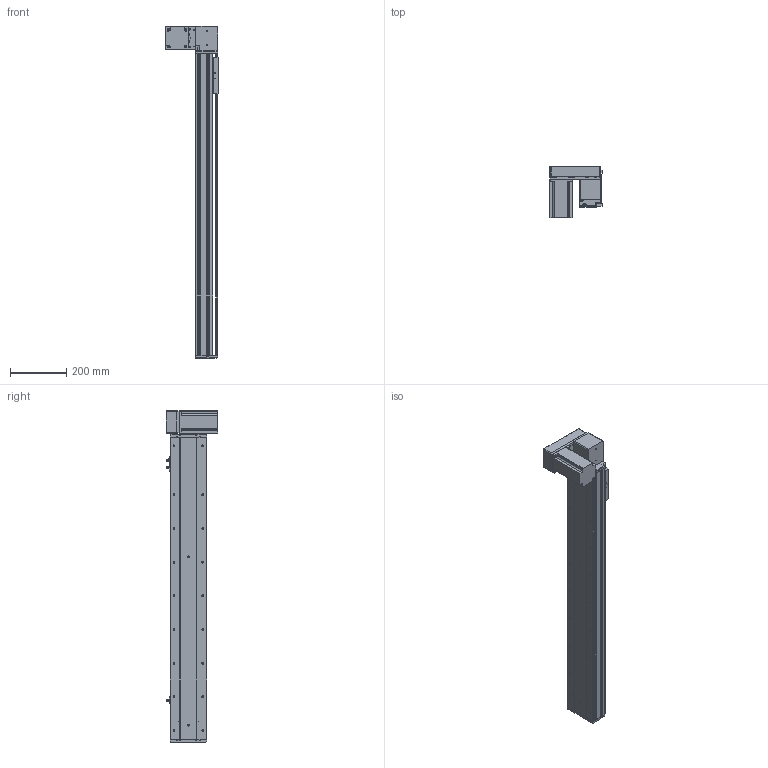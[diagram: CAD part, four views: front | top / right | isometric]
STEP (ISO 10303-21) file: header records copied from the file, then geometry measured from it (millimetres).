
FILE_DESCRIPTION (( 'STEP AP214' ), '1' );
FILE_NAME ('KSD130B-S850-MRD-CM.STEP', '2019-11-15T08:48:45', ( '微软用户' ), ( '微软中国' ), 'SwSTEP 2.0', 'SolidWorks 2014', '' );
FILE_SCHEMA (( 'AUTOMOTIVE_DESIGN' ));
Length unit declared in the file: millimetre
Products named in the file (12): 130宽模组保护罩上下左右折-同步带; 台达ECMA－C20807AS伺服电机; 130宽模组马达安装板连板上下折丝杆同步带; 覜茼え100遵圉猾敕; U倰嫖萇EEㄜSX672; 130宽盖板半封闭同步带-850行程; 130宽马达安装板同步带右-改镜向_默认<按加工>; 130宽马达安装板同步带半封闭; 130宽同步带安装座半封闭; 130宽端盖同步带半封闭; 130宽底板半封闭同步带-850行程; KSD130B-S850-MRD-CM
Assembly tree (13 placements, depth 2):
  KSD130B-S850-MRD-CM
    130宽底板半封闭同步带-850行程
    130宽端盖同步带半封闭
    130宽同步带安装座半封闭
    130宽马达安装板同步带半封闭
    130宽马达安装板同步带右-改镜向_默认<按加工>
    130宽盖板半封闭同步带-850行程
    U倰嫖萇EEㄜSX672  x3
    覜茼え100遵圉猾敕
    130宽模组马达安装板连板上下折丝杆同步带
    台达ECMA－C20807AS伺服电机
    130宽模组保护罩上下左右折-同步带
Bounding box: 186 x 184.8 x 1183 mm (x, y, z)
Volume: 4561896.8 mm3; surface area: 1232358.2 mm2
Topology: 14 solids, 14 shells, 1495 faces, 4245 edges, 2711 vertices
Faces by surface type: cylinder 710, plane 618, cone 167
Entity records: 48679 total; most frequent: CARTESIAN_POINT 8900, DIRECTION 7439, ORIENTED_EDGE 7142, EDGE_CURVE 3571, AXIS2_PLACEMENT_3D 2710, VERTEX_POINT 2335, LINE 2019, VECTOR 2019
